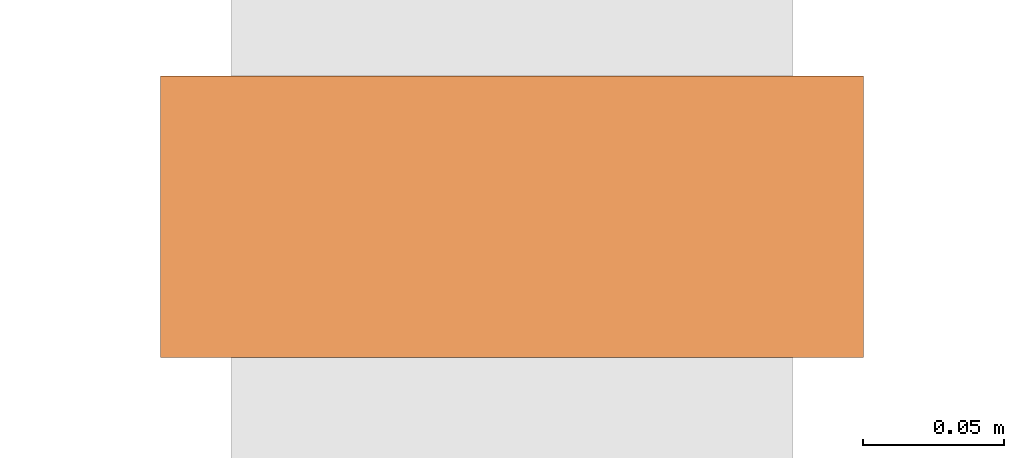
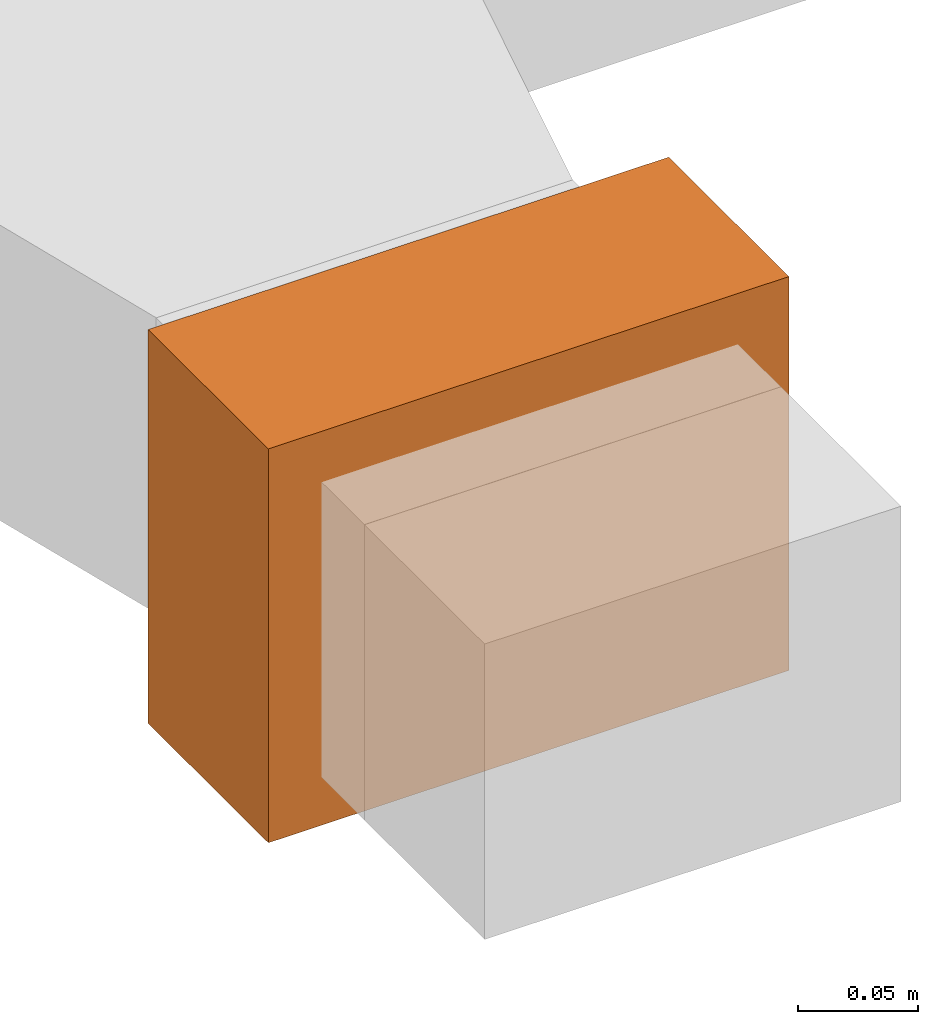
# One storey, part 14 of 15: 1 proxy.
"""IFC2X3 building model written with IfcOpenShell, lengths in millimetres."""

from ifc_helpers import new_model, entity, si_unit, converted_unit, derived_unit, direction, frame, origin, origin_2d_with_axis, place, context, subcontext, project, spatial, rectangle, extrude, source, transform, mapped, material, type_object, type_shapes, element, save


model = new_model("IFC2X3")

# Units and contexts
model_context = context("Model", 3, precision=0.01, world=origin(), true_north=direction((6.123233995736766e-17, 1.0)))
body_context = subcontext(model_context, "Body", "Model", "MODEL_VIEW")
ifc_project = project(units=[si_unit("LENGTHUNIT", "METRE", prefix="MILLI"), converted_unit("PLANEANGLEUNIT", "DEGREE", entity("IfcPlaneAngleMeasure", 0.017453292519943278), si_unit("PLANEANGLEUNIT", "RADIAN"), dimensions=[0, 0, 0, 0, 0, 0, 0]), si_unit("AREAUNIT", "SQUARE_METRE"), derived_unit("THERMALTRANSMITTANCEUNIT", [(si_unit("MASSUNIT", "GRAM", prefix="KILO"), 1), (si_unit("THERMODYNAMICTEMPERATUREUNIT", "KELVIN"), -1), (si_unit("TIMEUNIT", "SECOND"), -3)])], contexts=[model_context])

# Site, building, storey
site_placement = place(None, origin())
site = spatial("IfcSite", under=ifc_project, at=site_placement, Name="Default", CompositionType="ELEMENT")
building_placement = place(site_placement, origin())
building = spatial("IfcBuilding", under=site, at=building_placement, Name="Praça Pedro II, 1301 - Centro (Sul), Teresina - PI, 64001-100", CompositionType="ELEMENT")
storey_placement = place(building_placement, frame((0.0, 0.0, 3020.0)))
storey = spatial("IfcBuildingStorey", under=building, at=storey_placement, Name="1PAV", CompositionType="ELEMENT", Elevation=3020.0)

# Proxy
ifc_material = material(Name="<Unnamed>")
building_element_proxy_type = type_object("IfcBuildingElementProxyType", Name="M_Control Damper - Opposed Blade (Type):200x155", PredefinedType="NOTDEFINED", material=ifc_material)
shared_shape = source(origin(), body_context, "Body", "SweptSolid", [
    extrude(rectangle(XDim=100.0, YDim=250.00000000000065, at=origin_2d_with_axis()), frame((0.0, 0.0, -100.0), z_axis=(0.0, 0.0, 1.0), x_axis=(-1.0, 0.0, 0.0)), (0.0, 0.0, 1.0), 199.99999999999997),
])
type_shapes(building_element_proxy_type, [shared_shape])
proxy_placement = place(storey_placement, frame((6395.350747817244, -67212.56418491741, 1500.0), z_axis=(0.0, 0.0, -1.0), x_axis=(0.0, -1.0, 0.0)))
element("IfcBuildingElementProxy", 1, at=proxy_placement, inside=storey, type_object=building_element_proxy_type, material=ifc_material, Name="M_Control Damper - Opposed Blade (Type):200x155", ObjectType="M_Control Damper - Opposed Blade (Type):200x155", context=body_context, shape_type="MappedRepresentation", body=[
    mapped(shared_shape, transform((0.0, 0.0, 0.0), scale=1.0)),
])

save(model, "model.ifc")
